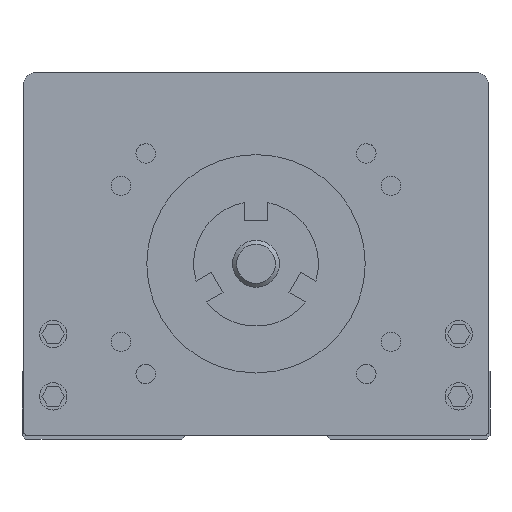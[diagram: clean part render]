
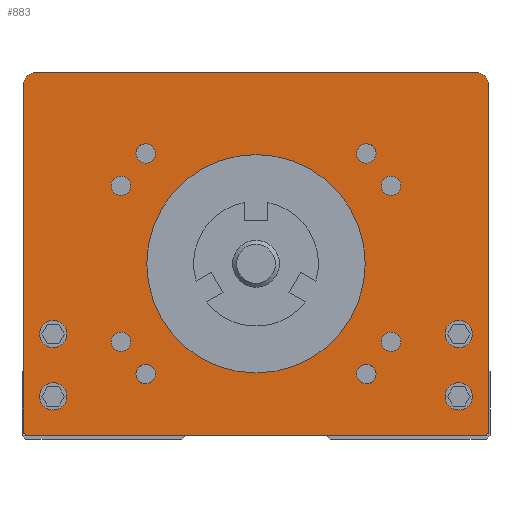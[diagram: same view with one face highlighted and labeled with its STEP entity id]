
A CAD part, front view. The second image highlights one B-rep face of the part: STEP entity #883.
In plain terms, the highlighted planar face has unit normal (0, -1, 0).
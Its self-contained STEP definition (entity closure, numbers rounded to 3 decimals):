
#608=FACE_BOUND('',#2068,.T.);
#609=FACE_BOUND('',#2069,.T.);
#610=FACE_BOUND('',#2070,.T.);
#611=FACE_BOUND('',#2071,.T.);
#612=FACE_BOUND('',#2072,.T.);
#613=FACE_BOUND('',#2073,.T.);
#614=FACE_BOUND('',#2074,.T.);
#615=FACE_BOUND('',#2075,.T.);
#616=FACE_BOUND('',#2076,.T.);
#617=FACE_BOUND('',#2077,.T.);
#618=FACE_BOUND('',#2078,.T.);
#619=FACE_BOUND('',#2079,.T.);
#620=FACE_BOUND('',#2080,.T.);
#621=FACE_BOUND('',#2081,.T.);
#883=ADVANCED_FACE('',(#608,#609,#610,#611,#612,#613,#614,#615,#616,#617,
#618,#619,#620,#621),#1348,.F.);
#1348=PLANE('',#8715);
#2068=EDGE_LOOP('',(#3204));
#2069=EDGE_LOOP('',(#3205));
#2070=EDGE_LOOP('',(#3206));
#2071=EDGE_LOOP('',(#3207));
#2072=EDGE_LOOP('',(#3208));
#2073=EDGE_LOOP('',(#3209));
#2074=EDGE_LOOP('',(#3210));
#2075=EDGE_LOOP('',(#3211));
#2076=EDGE_LOOP('',(#3212,#3213,#3214,#3215,#3216,#3217,#3218,#3219));
#2077=EDGE_LOOP('',(#3220));
#2078=EDGE_LOOP('',(#3221));
#2079=EDGE_LOOP('',(#3222));
#2080=EDGE_LOOP('',(#3223));
#2081=EDGE_LOOP('',(#3224));
#2675=CIRCLE('',#8698,1.25);
#2676=CIRCLE('',#8699,1.25);
#2677=CIRCLE('',#8700,1.25);
#2678=CIRCLE('',#8701,1.25);
#2679=CIRCLE('',#8702,1.25);
#2680=CIRCLE('',#8703,1.25);
#2681=CIRCLE('',#8704,1.25);
#2682=CIRCLE('',#8705,1.25);
#2683=CIRCLE('',#8706,0.5);
#2684=CIRCLE('',#8707,1.5);
#2685=CIRCLE('',#8708,1.5);
#2686=CIRCLE('',#8709,0.5);
#2687=CIRCLE('',#8710,1.75);
#2688=CIRCLE('',#8711,1.75);
#2689=CIRCLE('',#8712,1.75);
#2690=CIRCLE('',#8713,1.75);
#2691=CIRCLE('',#8714,14.);
#3204=ORIENTED_EDGE('',*,*,#6093,.F.);
#3205=ORIENTED_EDGE('',*,*,#6094,.F.);
#3206=ORIENTED_EDGE('',*,*,#6095,.F.);
#3207=ORIENTED_EDGE('',*,*,#6096,.F.);
#3208=ORIENTED_EDGE('',*,*,#6097,.F.);
#3209=ORIENTED_EDGE('',*,*,#6098,.F.);
#3210=ORIENTED_EDGE('',*,*,#6099,.F.);
#3211=ORIENTED_EDGE('',*,*,#6100,.F.);
#3212=ORIENTED_EDGE('',*,*,#5937,.T.);
#3213=ORIENTED_EDGE('',*,*,#6101,.T.);
#3214=ORIENTED_EDGE('',*,*,#6072,.T.);
#3215=ORIENTED_EDGE('',*,*,#6102,.T.);
#3216=ORIENTED_EDGE('',*,*,#6103,.F.);
#3217=ORIENTED_EDGE('',*,*,#6104,.T.);
#3218=ORIENTED_EDGE('',*,*,#6105,.T.);
#3219=ORIENTED_EDGE('',*,*,#6106,.T.);
#3220=ORIENTED_EDGE('',*,*,#6107,.F.);
#3221=ORIENTED_EDGE('',*,*,#6108,.F.);
#3222=ORIENTED_EDGE('',*,*,#6109,.F.);
#3223=ORIENTED_EDGE('',*,*,#6110,.F.);
#3224=ORIENTED_EDGE('',*,*,#6111,.F.);
#5180=VERTEX_POINT('',#11848);
#5181=VERTEX_POINT('',#11850);
#5281=VERTEX_POINT('',#12154);
#5282=VERTEX_POINT('',#12156);
#5302=VERTEX_POINT('',#12202);
#5303=VERTEX_POINT('',#12204);
#5304=VERTEX_POINT('',#12206);
#5305=VERTEX_POINT('',#12208);
#5306=VERTEX_POINT('',#12210);
#5307=VERTEX_POINT('',#12212);
#5308=VERTEX_POINT('',#12214);
#5309=VERTEX_POINT('',#12216);
#5310=VERTEX_POINT('',#12219);
#5311=VERTEX_POINT('',#12221);
#5312=VERTEX_POINT('',#12223);
#5313=VERTEX_POINT('',#12225);
#5314=VERTEX_POINT('',#12228);
#5315=VERTEX_POINT('',#12230);
#5316=VERTEX_POINT('',#12232);
#5317=VERTEX_POINT('',#12234);
#5318=VERTEX_POINT('',#12236);
#5937=EDGE_CURVE('',#5181,#5180,#7047,.T.);
#6072=EDGE_CURVE('',#5282,#5281,#7136,.T.);
#6093=EDGE_CURVE('',#5302,#5302,#2675,.T.);
#6094=EDGE_CURVE('',#5303,#5303,#2676,.T.);
#6095=EDGE_CURVE('',#5304,#5304,#2677,.T.);
#6096=EDGE_CURVE('',#5305,#5305,#2678,.T.);
#6097=EDGE_CURVE('',#5306,#5306,#2679,.T.);
#6098=EDGE_CURVE('',#5307,#5307,#2680,.T.);
#6099=EDGE_CURVE('',#5308,#5308,#2681,.T.);
#6100=EDGE_CURVE('',#5309,#5309,#2682,.T.);
#6101=EDGE_CURVE('',#5180,#5282,#2683,.T.);
#6102=EDGE_CURVE('',#5281,#5310,#2684,.T.);
#6103=EDGE_CURVE('',#5311,#5310,#7149,.T.);
#6104=EDGE_CURVE('',#5311,#5312,#2685,.T.);
#6105=EDGE_CURVE('',#5312,#5313,#7150,.T.);
#6106=EDGE_CURVE('',#5313,#5181,#2686,.T.);
#6107=EDGE_CURVE('',#5314,#5314,#2687,.T.);
#6108=EDGE_CURVE('',#5315,#5315,#2688,.T.);
#6109=EDGE_CURVE('',#5316,#5316,#2689,.T.);
#6110=EDGE_CURVE('',#5317,#5317,#2690,.T.);
#6111=EDGE_CURVE('',#5318,#5318,#2691,.T.);
#7047=LINE('',#11849,#7827);
#7136=LINE('',#12155,#7916);
#7149=LINE('',#12220,#7929);
#7150=LINE('',#12224,#7930);
#7827=VECTOR('',#9426,1.);
#7916=VECTOR('',#9699,1.);
#7929=VECTOR('',#9758,1.);
#7930=VECTOR('',#9761,1.);
#8698=AXIS2_PLACEMENT_3D('',#12201,#9738,#9739);
#8699=AXIS2_PLACEMENT_3D('',#12203,#9740,#9741);
#8700=AXIS2_PLACEMENT_3D('',#12205,#9742,#9743);
#8701=AXIS2_PLACEMENT_3D('',#12207,#9744,#9745);
#8702=AXIS2_PLACEMENT_3D('',#12209,#9746,#9747);
#8703=AXIS2_PLACEMENT_3D('',#12211,#9748,#9749);
#8704=AXIS2_PLACEMENT_3D('',#12213,#9750,#9751);
#8705=AXIS2_PLACEMENT_3D('',#12215,#9752,#9753);
#8706=AXIS2_PLACEMENT_3D('',#12217,#9754,#9755);
#8707=AXIS2_PLACEMENT_3D('',#12218,#9756,#9757);
#8708=AXIS2_PLACEMENT_3D('',#12222,#9759,#9760);
#8709=AXIS2_PLACEMENT_3D('',#12226,#9762,#9763);
#8710=AXIS2_PLACEMENT_3D('',#12227,#9764,#9765);
#8711=AXIS2_PLACEMENT_3D('',#12229,#9766,#9767);
#8712=AXIS2_PLACEMENT_3D('',#12231,#9768,#9769);
#8713=AXIS2_PLACEMENT_3D('',#12233,#9770,#9771);
#8714=AXIS2_PLACEMENT_3D('',#12235,#9772,#9773);
#8715=AXIS2_PLACEMENT_3D('',#12237,#9774,#9775);
#9426=DIRECTION('',(1.,0.,0.));
#9699=DIRECTION('',(0.,0.,1.));
#9738=DIRECTION('',(0.,-1.,0.));
#9739=DIRECTION('',(0.,0.,1.));
#9740=DIRECTION('',(0.,-1.,0.));
#9741=DIRECTION('',(0.,0.,1.));
#9742=DIRECTION('',(0.,-1.,0.));
#9743=DIRECTION('',(0.,0.,1.));
#9744=DIRECTION('',(0.,-1.,0.));
#9745=DIRECTION('',(0.,0.,1.));
#9746=DIRECTION('',(0.,-1.,0.));
#9747=DIRECTION('',(0.,0.,1.));
#9748=DIRECTION('',(0.,-1.,0.));
#9749=DIRECTION('',(0.,0.,1.));
#9750=DIRECTION('',(0.,-1.,0.));
#9751=DIRECTION('',(0.,0.,1.));
#9752=DIRECTION('',(0.,-1.,0.));
#9753=DIRECTION('',(0.,0.,1.));
#9754=DIRECTION('',(0.,-1.,0.));
#9755=DIRECTION('',(0.,0.,1.));
#9756=DIRECTION('',(0.,-1.,0.));
#9757=DIRECTION('',(1.,0.,0.));
#9758=DIRECTION('',(1.,0.,0.));
#9759=DIRECTION('',(0.,-1.,0.));
#9760=DIRECTION('',(0.,0.,1.));
#9761=DIRECTION('',(0.,0.,-1.));
#9762=DIRECTION('',(0.,-1.,0.));
#9763=DIRECTION('',(0.,0.,1.));
#9764=DIRECTION('',(0.,-1.,0.));
#9765=DIRECTION('',(-1.,0.,0.));
#9766=DIRECTION('',(0.,-1.,0.));
#9767=DIRECTION('',(-1.,0.,0.));
#9768=DIRECTION('',(0.,-1.,0.));
#9769=DIRECTION('',(-1.,0.,0.));
#9770=DIRECTION('',(0.,-1.,0.));
#9771=DIRECTION('',(-1.,0.,0.));
#9772=DIRECTION('',(0.,-1.,0.));
#9773=DIRECTION('',(-1.,0.,0.));
#9774=DIRECTION('',(0.,1.,0.));
#9775=DIRECTION('',(1.,0.,0.));
#11848=CARTESIAN_POINT('',(29.3,50.,0.));
#11849=CARTESIAN_POINT('',(-28.3,50.,0.));
#11850=CARTESIAN_POINT('',(-29.3,50.,0.));
#12154=CARTESIAN_POINT('',(29.8,50.,45.));
#12155=CARTESIAN_POINT('',(29.8,50.,1.5));
#12156=CARTESIAN_POINT('',(29.8,50.,0.5));
#12201=CARTESIAN_POINT('',(-14.142,50.,36.142));
#12202=CARTESIAN_POINT('',(-14.142,50.,37.392));
#12203=CARTESIAN_POINT('',(14.142,50.,36.142));
#12204=CARTESIAN_POINT('',(14.142,50.,37.392));
#12205=CARTESIAN_POINT('',(14.142,50.,7.858));
#12206=CARTESIAN_POINT('',(14.142,50.,9.108));
#12207=CARTESIAN_POINT('',(-14.142,50.,7.858));
#12208=CARTESIAN_POINT('',(-14.142,50.,9.108));
#12209=CARTESIAN_POINT('',(-17.321,50.,32.));
#12210=CARTESIAN_POINT('',(-17.321,50.,33.25));
#12211=CARTESIAN_POINT('',(17.321,50.,32.));
#12212=CARTESIAN_POINT('',(17.321,50.,33.25));
#12213=CARTESIAN_POINT('',(17.321,50.,12.));
#12214=CARTESIAN_POINT('',(17.321,50.,13.25));
#12215=CARTESIAN_POINT('',(-17.321,50.,12.));
#12216=CARTESIAN_POINT('',(-17.321,50.,13.25));
#12217=CARTESIAN_POINT('',(29.3,50.,0.5));
#12218=CARTESIAN_POINT('',(28.3,50.,45.));
#12219=CARTESIAN_POINT('',(28.3,50.,46.5));
#12220=CARTESIAN_POINT('',(-28.3,50.,46.5));
#12221=CARTESIAN_POINT('',(-28.3,50.,46.5));
#12222=CARTESIAN_POINT('',(-28.3,50.,45.));
#12223=CARTESIAN_POINT('',(-29.8,50.,45.));
#12224=CARTESIAN_POINT('',(-29.8,50.,42.5));
#12225=CARTESIAN_POINT('',(-29.8,50.,0.5));
#12226=CARTESIAN_POINT('',(-29.3,50.,0.5));
#12227=CARTESIAN_POINT('',(-26.,50.,13.));
#12228=CARTESIAN_POINT('',(-27.75,50.,13.));
#12229=CARTESIAN_POINT('',(-26.,50.,5.));
#12230=CARTESIAN_POINT('',(-27.75,50.,5.));
#12231=CARTESIAN_POINT('',(26.,50.,5.));
#12232=CARTESIAN_POINT('',(24.25,50.,5.));
#12233=CARTESIAN_POINT('',(26.,50.,13.));
#12234=CARTESIAN_POINT('',(24.25,50.,13.));
#12235=CARTESIAN_POINT('',(0.,50.,22.));
#12236=CARTESIAN_POINT('',(-14.,50.,22.));
#12237=CARTESIAN_POINT('',(0.,50.,-28.5));
